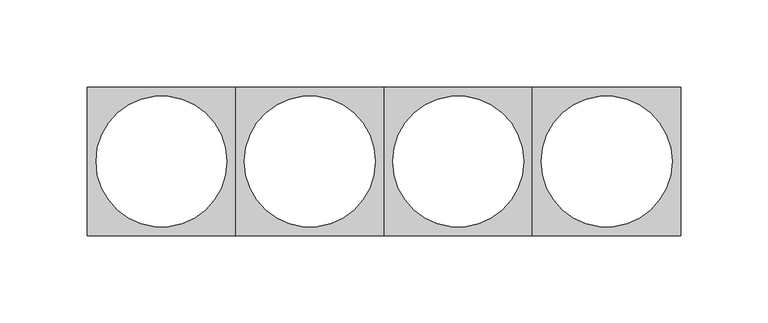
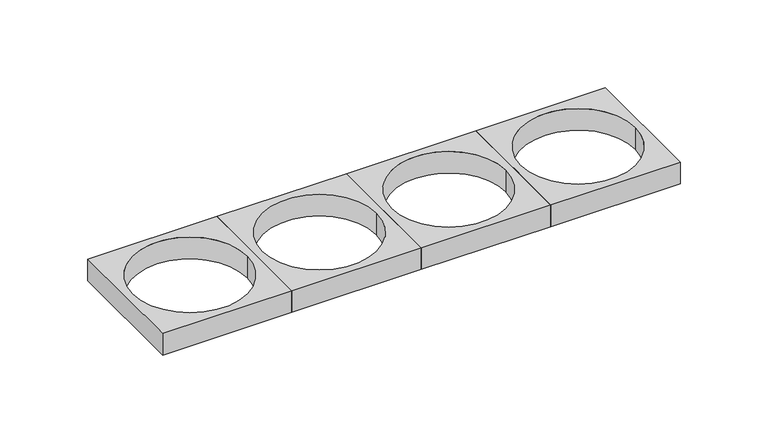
"""IFC4 building model written with IfcOpenShell, lengths in millimetres: duct fitting geometry, Mosaic Суппорт на 4 модуля : 85мм."""

from ifc_helpers import new_model, si_unit, point, frame_2d, origin, origin_with_axes, origin_2d, place, context, project, spatial, polyline, circle_curve, trimmed, segment, composite_curve, outline, extrude, source, transform, mapped, element, save


def duct_fitting_f42a3732(model_context):
    return source(origin(), model_context, "Body", "SweptSolid", [
        extrude(outline(polyline([(297.5, 42.5), (297.5, -42.5), (212.5, -42.5), (212.5, 42.5), (297.5, 42.5)]), holes=[composite_curve([segment(trimmed(circle_curve(frame_2d((255.0, 0.0)), 37.5), [point((217.5, 0.0))], [point((292.5, 0.0))], True, "CARTESIAN"), True, "CONTINUOUS"), segment(trimmed(circle_curve(frame_2d((255.0, 0.0)), 37.5), [point((292.5, 0.0))], [point((217.5, 0.0))], True, "CARTESIAN"), True, "CONTINUOUS")], self_intersect=False)]), origin_with_axes(), (0.0, 0.0, 1.0), 15.0),
        extrude(outline(polyline([(212.5, 42.5), (212.5, -42.5), (127.5, -42.5), (127.5, 42.5), (212.5, 42.5)]), holes=[composite_curve([segment(trimmed(circle_curve(frame_2d((170.0, 0.0)), 37.5), [point((132.5, 0.0))], [point((207.5, 0.0))], True, "CARTESIAN"), True, "CONTINUOUS"), segment(trimmed(circle_curve(frame_2d((170.0, 0.0)), 37.5), [point((207.5, 0.0))], [point((132.5, 0.0))], True, "CARTESIAN"), True, "CONTINUOUS")], self_intersect=False)]), origin_with_axes(), (0.0, 0.0, 1.0), 15.0),
        extrude(outline(polyline([(127.5, 42.5), (127.5, -42.5), (42.5, -42.5), (42.5, 42.5), (127.5, 42.5)]), holes=[composite_curve([segment(trimmed(circle_curve(frame_2d((85.0, 0.0)), 37.5), [point((47.5, 0.0))], [point((122.5, 0.0))], True, "CARTESIAN"), True, "CONTINUOUS"), segment(trimmed(circle_curve(frame_2d((85.0, 0.0)), 37.5), [point((122.5, 0.0))], [point((47.5, 0.0))], True, "CARTESIAN"), True, "CONTINUOUS")], self_intersect=False)]), origin_with_axes(), (0.0, 0.0, 1.0), 15.0),
        extrude(outline(polyline([(42.5, 42.5), (42.5, -42.5), (-42.5, -42.5), (-42.5, 42.5), (42.5, 42.5)]), holes=[composite_curve([segment(trimmed(circle_curve(origin_2d(), 37.5), [point((-37.5, 0.0))], [point((37.5, 0.0))], True, "CARTESIAN"), True, "CONTINUOUS"), segment(trimmed(circle_curve(origin_2d(), 37.5), [point((37.5, 0.0))], [point((-37.5, 0.0))], True, "CARTESIAN"), True, "CONTINUOUS")], self_intersect=False)]), origin_with_axes(), (0.0, 0.0, 1.0), 15.0),
    ])


if __name__ == "__main__":
    model = new_model("IFC4")
    model_context = context("Model", 3, world=origin())
    ifc_project = project(units=[si_unit("LENGTHUNIT", "METRE", prefix="MILLI")], contexts=[model_context])
    site = spatial("IfcSite", under=ifc_project)
    building = spatial("IfcBuilding", under=site)
    placement = place(None, origin())
    duct_fitting_shape = duct_fitting_f42a3732(model_context)
    element("IfcDuctFitting", 1, ObjectType="Mosaic Суппорт на 4 модуля : 85мм", at=placement, inside=building, context=model_context, shape_type="MappedRepresentation", body=[
        mapped(duct_fitting_shape, transform((0.0, 0.0, 0.0), x_axis=(1.0, 0.0, 0.0), y_axis=(0.0, 1.0, 0.0), z_axis=(0.0, 0.0, 1.0))),
    ])
    save(model, "model.ifc")
